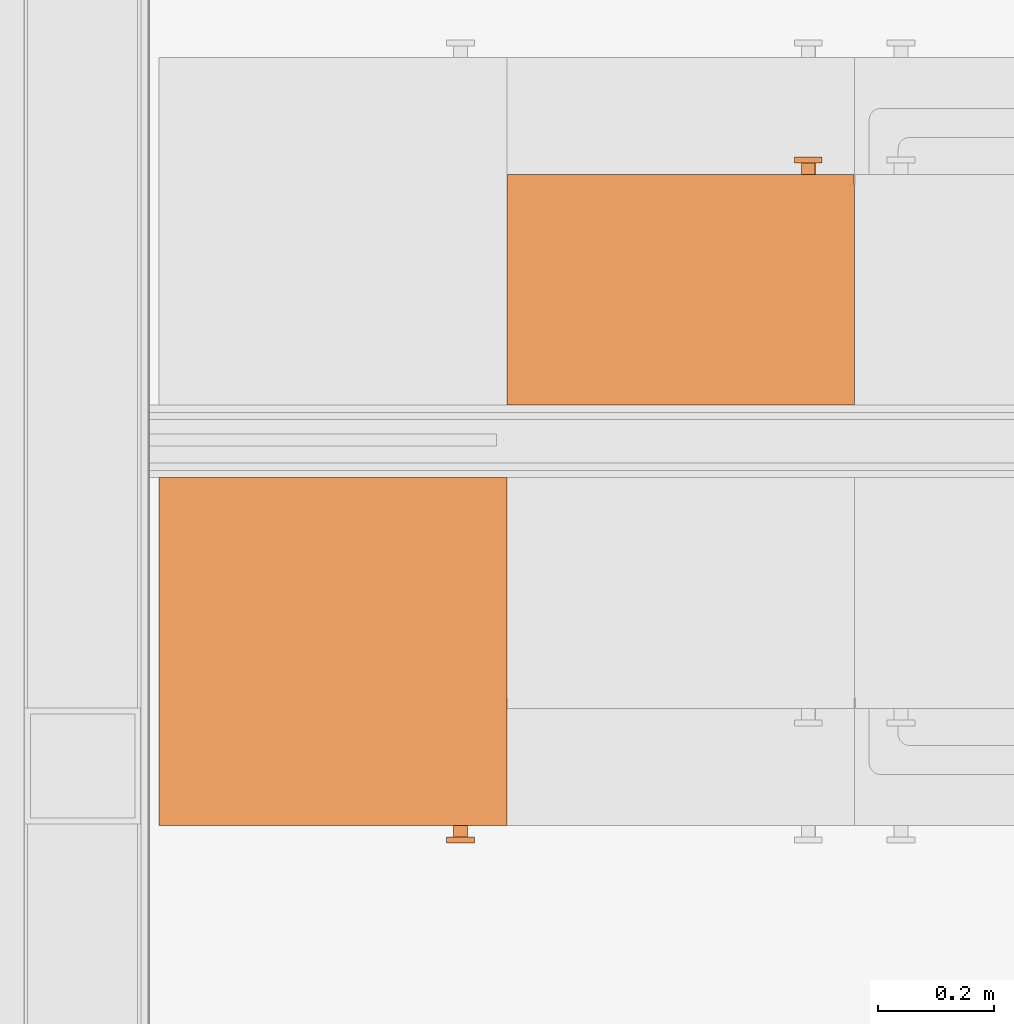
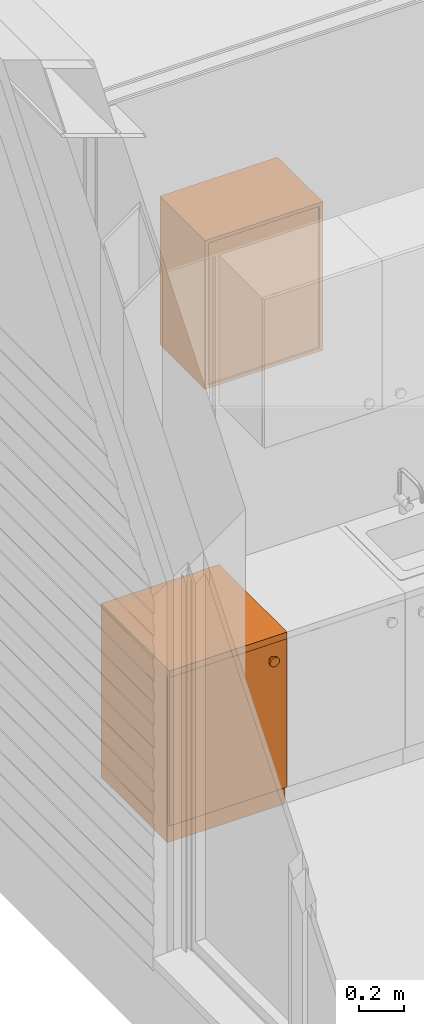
# One storey, part 127 of 165: 2 proxies.
"""IFC2X3 building model written with IfcOpenShell, lengths in millimetres."""

from ifc_helpers import new_model, entity, si_unit, converted_unit, derived_unit, money_unit, direction, frame, origin_with_axes, place, context, subcontext, project, spatial, faceted_brep, source, transform, mapped, type_object, type_shapes, element, save


model = new_model("IFC2X3")

# Units and contexts
model_context = context("Model", 3, precision=0.01, world=origin_with_axes(), true_north=direction((0.0, 1.0)))
body_context = subcontext(model_context, "Body", "Model", "MODEL_VIEW")
ifc_project = project(units=[si_unit("LENGTHUNIT", "METRE", prefix="MILLI"), si_unit("AREAUNIT", "SQUARE_METRE"), si_unit("VOLUMEUNIT", "CUBIC_METRE"), converted_unit("PLANEANGLEUNIT", "DEGREE", entity("IfcPlaneAngleMeasure", 0.0174532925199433), si_unit("PLANEANGLEUNIT", "RADIAN"), dimensions=[0, 0, 0, 0, 0, 0, 0]), money_unit("EUR"), converted_unit("TIMEUNIT", "Year", entity("IfcTimeMeasure", 31556926.0), si_unit("TIMEUNIT", "SECOND"), dimensions=[0, 0, 1, 0, 0, 0, 0]), si_unit("MASSUNIT", "GRAM", prefix="KILO"), si_unit("THERMODYNAMICTEMPERATUREUNIT", "DEGREE_CELSIUS"), si_unit("LUMINOUSINTENSITYUNIT", "LUMEN"), si_unit("ENERGYUNIT", "JOULE", prefix="MEGA"), derived_unit("THERMALCONDUCTANCEUNIT", [(si_unit("POWERUNIT", "WATT"), 1), (si_unit("LENGTHUNIT", "METRE"), -1), (si_unit("THERMODYNAMICTEMPERATUREUNIT", "KELVIN"), -1)]), derived_unit("SPECIFICHEATCAPACITYUNIT", [(si_unit("ENERGYUNIT", "JOULE"), 1), (si_unit("MASSUNIT", "GRAM", prefix="KILO"), -1), (si_unit("THERMODYNAMICTEMPERATUREUNIT", "KELVIN"), -1)]), derived_unit("MASSDENSITYUNIT", [(si_unit("MASSUNIT", "GRAM", prefix="KILO"), 1), (si_unit("VOLUMEUNIT", "CUBIC_METRE"), -1)])], contexts=[model_context])

# Site, building, storey
site_placement = place(None, origin_with_axes())
site = spatial("IfcSite", under=ifc_project, at=site_placement, Name="Site", CompositionType="ELEMENT")
building_placement = place(site_placement, origin_with_axes())
building = spatial("IfcBuilding", under=site, at=building_placement, Name="Naam gebouw", CompositionType="ELEMENT")
storey_placement = place(building_placement, origin_with_axes())
storey = spatial("IfcBuildingStorey", under=building, at=storey_placement, Name="Begane grond", CompositionType="ELEMENT", Elevation=0.0)

# Proxies
building_element_proxy_type_1 = type_object("IfcBuildingElementProxyType", Name="Onderkast recht 26", PredefinedType="NOTDEFINED")
shared_shape_1 = source(origin_with_axes(), body_context, "Body", "Brep", [
    faceted_brep([(0.0, -600.0, 900.0), (600.0, -600.0, 900.0), (600.0, -600.0, 935.0), (0.0, -600.0, 935.0), (0.0, 0.0, 900.0), (600.0, 0.0, 900.0), (600.0, 0.0, 935.0), (0.0, 0.0, 935.0)], [[[0, 1, 2, 3]], [[0, 4, 5, 1]], [[1, 5, 6, 2]], [[3, 2, 6, 7]], [[4, 0, 3, 7]], [[5, 4, 7, 6]]]),
    faceted_brep([(531.8176930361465, -600.0, 816.9162218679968), (531.2763114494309, -600.0, 814.895758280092), (530.3923048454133, -600.0, 813.0), (529.1925333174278, -600.0, 811.2865486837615), (527.7134513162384, -600.0, 809.8074666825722), (526.0, -600.0, 808.6076951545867), (524.104241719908, -600.0, 807.7236885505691), (522.0837781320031, -600.0, 807.1823069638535), (520.0, -600.0, 806.9999999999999), (517.9162218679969, -600.0, 807.1823069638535), (515.8957582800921, -600.0, 807.7236885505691), (514.0, -600.0, 808.6076951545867), (512.2865486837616, -600.0, 809.8074666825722), (510.8074666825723, -600.0, 811.2865486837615), (509.6076951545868, -600.0, 813.0), (508.7236885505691, -600.0, 814.895758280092), (508.1823069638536, -600.0, 816.9162218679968), (508.0, -600.0, 819.0), (508.1823069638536, -600.0, 821.0837781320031), (508.7236885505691, -600.0, 823.1042417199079), (509.6076951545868, -600.0, 825.0), (510.8074666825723, -600.0, 826.7134513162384), (512.2865486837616, -600.0, 828.1925333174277), (514.0, -600.0, 829.3923048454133), (515.8957582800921, -600.0, 830.2763114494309), (517.9162218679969, -600.0, 830.8176930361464), (520.0, -600.0, 831.0), (522.0837781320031, -600.0, 830.8176930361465), (524.104241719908, -600.0, 830.2763114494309), (526.0, -600.0, 829.3923048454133), (527.7134513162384, -600.0, 828.1925333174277), (529.1925333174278, -600.0, 826.7134513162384), (530.3923048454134, -600.0, 825.0), (531.2763114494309, -600.0, 823.1042417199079), (531.8176930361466, -600.0, 821.0837781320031), (532.0, -600.0, 819.0), (531.8176930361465, -620.0, 816.9162218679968), (531.2763114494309, -620.0, 814.895758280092), (530.3923048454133, -620.0, 813.0), (529.1925333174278, -620.0, 811.2865486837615), (527.7134513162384, -620.0, 809.8074666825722), (526.0, -620.0, 808.6076951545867), (524.104241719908, -620.0, 807.7236885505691), (522.0837781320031, -620.0, 807.1823069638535), (520.0, -620.0, 806.9999999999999), (517.9162218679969, -620.0, 807.1823069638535), (515.8957582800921, -620.0, 807.7236885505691), (514.0, -620.0, 808.6076951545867), (512.2865486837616, -620.0, 809.8074666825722), (510.8074666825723, -620.0, 811.2865486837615), (509.6076951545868, -620.0, 813.0), (508.7236885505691, -620.0, 814.895758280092), (508.1823069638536, -620.0, 816.9162218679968), (508.0, -620.0, 819.0), (508.1823069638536, -620.0, 821.0837781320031), (508.7236885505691, -620.0, 823.1042417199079), (509.6076951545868, -620.0, 825.0), (510.8074666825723, -620.0, 826.7134513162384), (512.2865486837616, -620.0, 828.1925333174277), (514.0, -620.0, 829.3923048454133), (515.8957582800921, -620.0, 830.2763114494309), (517.9162218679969, -620.0, 830.8176930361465), (520.0, -620.0, 831.0), (522.0837781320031, -620.0, 830.8176930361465), (524.104241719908, -620.0, 830.2763114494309), (526.0, -620.0, 829.3923048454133), (527.7134513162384, -620.0, 828.1925333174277), (529.1925333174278, -620.0, 826.7134513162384), (530.3923048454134, -620.0, 825.0), (531.2763114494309, -620.0, 823.1042417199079), (531.8176930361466, -620.0, 821.0837781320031), (532.0, -620.0, 819.0)], [[[0, 1, 2, 3, 4, 5, 6, 7, 8, 9, 10, 11, 12, 13, 14, 15, 16, 17, 18, 19, 20, 21, 22, 23, 24, 25, 26, 27, 28, 29, 30, 31, 32, 33, 34, 35]], [[1, 0, 36, 37]], [[2, 1, 37, 38]], [[3, 2, 38, 39]], [[4, 3, 39, 40]], [[5, 4, 40, 41]], [[6, 5, 41, 42]], [[7, 6, 42, 43]], [[8, 7, 43, 44]], [[9, 8, 44, 45]], [[10, 9, 45, 46]], [[11, 10, 46, 47]], [[12, 11, 47, 48]], [[13, 12, 48, 49]], [[14, 13, 49, 50]], [[15, 14, 50, 51]], [[16, 15, 51, 52]], [[17, 16, 52, 53]], [[18, 17, 53, 54]], [[19, 18, 54, 55]], [[20, 19, 55, 56]], [[21, 20, 56, 57]], [[22, 21, 57, 58]], [[23, 22, 58, 59]], [[24, 23, 59, 60]], [[25, 24, 60, 61]], [[26, 25, 61, 62]], [[27, 26, 62, 63]], [[28, 27, 63, 64]], [[29, 28, 64, 65]], [[30, 29, 65, 66]], [[31, 30, 66, 67]], [[32, 31, 67, 68]], [[33, 32, 68, 69]], [[34, 33, 69, 70]], [[35, 34, 70, 71]], [[0, 35, 71, 36]], [[36, 71, 70, 69, 68, 67, 66, 65, 64, 63, 62, 61, 60, 59, 58, 57, 56, 55, 54, 53, 52, 51, 50, 49, 48, 47, 46, 45, 44, 43, 42, 41, 40, 39, 38, 37]]]),
    faceted_brep([(543.635386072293, -620.0, 814.8324437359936), (542.5526228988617, -620.0, 810.7915165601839), (540.7846096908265, -620.0, 806.9999999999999), (538.3850666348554, -620.0, 803.573097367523), (535.426902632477, -620.0, 800.6149333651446), (532.0, -620.0, 798.2153903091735), (528.2084834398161, -620.0, 796.4473771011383), (524.1675562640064, -620.0, 795.364613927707), (520.0, -620.0, 794.9999999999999), (515.8324437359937, -620.0, 795.364613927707), (511.7915165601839, -620.0, 796.4473771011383), (508.0, -620.0, 798.2153903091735), (504.5730973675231, -620.0, 800.6149333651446), (501.6149333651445, -620.0, 803.573097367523), (499.2153903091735, -620.0, 806.9999999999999), (497.4473771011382, -620.0, 810.7915165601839), (496.364613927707, -620.0, 814.8324437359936), (496.0000000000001, -620.0, 819.0), (496.364613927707, -620.0, 823.1675562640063), (497.4473771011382, -620.0, 827.2084834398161), (499.2153903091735, -620.0, 831.0), (501.6149333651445, -620.0, 834.4269026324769), (504.5730973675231, -620.0, 837.3850666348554), (508.0, -620.0, 839.7846096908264), (511.7915165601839, -620.0, 841.5526228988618), (515.8324437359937, -620.0, 842.6353860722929), (520.0, -620.0, 843.0), (524.1675562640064, -620.0, 842.6353860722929), (528.2084834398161, -620.0, 841.5526228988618), (532.0, -620.0, 839.7846096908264), (535.426902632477, -620.0, 837.3850666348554), (538.3850666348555, -620.0, 834.4269026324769), (540.7846096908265, -620.0, 831.0), (542.5526228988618, -620.0, 827.2084834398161), (543.635386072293, -620.0, 823.1675562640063), (544.0, -620.0, 819.0), (543.635386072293, -630.0, 814.8324437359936), (542.5526228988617, -630.0, 810.7915165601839), (540.7846096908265, -630.0, 806.9999999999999), (538.3850666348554, -630.0, 803.573097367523), (535.426902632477, -630.0, 800.6149333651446), (532.0, -630.0, 798.2153903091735), (528.2084834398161, -630.0, 796.4473771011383), (524.1675562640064, -630.0, 795.364613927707), (520.0, -630.0, 794.9999999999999), (515.8324437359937, -630.0, 795.364613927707), (511.7915165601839, -630.0, 796.4473771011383), (508.0, -630.0, 798.2153903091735), (504.5730973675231, -630.0, 800.6149333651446), (501.6149333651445, -630.0, 803.573097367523), (499.2153903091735, -630.0, 806.9999999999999), (497.4473771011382, -630.0, 810.7915165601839), (496.364613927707, -630.0, 814.8324437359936), (496.0000000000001, -630.0, 819.0), (496.364613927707, -630.0, 823.1675562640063), (497.4473771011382, -630.0, 827.2084834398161), (499.2153903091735, -630.0, 831.0), (501.6149333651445, -630.0, 834.4269026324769), (504.5730973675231, -630.0, 837.3850666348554), (508.0, -630.0, 839.7846096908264), (511.7915165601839, -630.0, 841.5526228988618), (515.8324437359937, -630.0, 842.6353860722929), (520.0, -630.0, 843.0), (524.1675562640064, -630.0, 842.6353860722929), (528.2084834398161, -630.0, 841.5526228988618), (532.0, -630.0, 839.7846096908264), (535.426902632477, -630.0, 837.3850666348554), (538.3850666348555, -630.0, 834.4269026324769), (540.7846096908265, -630.0, 831.0), (542.5526228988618, -630.0, 827.2084834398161), (543.635386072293, -630.0, 823.1675562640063), (544.0, -630.0, 819.0)], [[[0, 1, 2, 3, 4, 5, 6, 7, 8, 9, 10, 11, 12, 13, 14, 15, 16, 17, 18, 19, 20, 21, 22, 23, 24, 25, 26, 27, 28, 29, 30, 31, 32, 33, 34, 35]], [[1, 0, 36, 37]], [[2, 1, 37, 38]], [[3, 2, 38, 39]], [[4, 3, 39, 40]], [[5, 4, 40, 41]], [[6, 5, 41, 42]], [[7, 6, 42, 43]], [[8, 7, 43, 44]], [[9, 8, 44, 45]], [[10, 9, 45, 46]], [[11, 10, 46, 47]], [[12, 11, 47, 48]], [[13, 12, 48, 49]], [[14, 13, 49, 50]], [[15, 14, 50, 51]], [[16, 15, 51, 52]], [[17, 16, 52, 53]], [[18, 17, 53, 54]], [[19, 18, 54, 55]], [[20, 19, 55, 56]], [[21, 20, 56, 57]], [[22, 21, 57, 58]], [[23, 22, 58, 59]], [[24, 23, 59, 60]], [[25, 24, 60, 61]], [[26, 25, 61, 62]], [[27, 26, 62, 63]], [[28, 27, 63, 64]], [[29, 28, 64, 65]], [[30, 29, 65, 66]], [[31, 30, 66, 67]], [[32, 31, 67, 68]], [[33, 32, 68, 69]], [[34, 33, 69, 70]], [[35, 34, 70, 71]], [[0, 35, 71, 36]], [[36, 71, 70, 69, 68, 67, 66, 65, 64, 63, 62, 61, 60, 59, 58, 57, 56, 55, 54, 53, 52, 51, 50, 49, 48, 47, 46, 45, 44, 43, 42, 41, 40, 39, 38, 37]]]),
    faceted_brep([(1.0, -582.0, 101.0), (599.0, -582.0, 101.0), (599.0, -600.0, 101.0), (1.0, -600.0, 101.0), (1.0, -582.0, 899.0), (599.0, -582.0, 899.0), (599.0, -599.9999999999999, 899.0), (1.0, -599.9999999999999, 899.0)], [[[0, 1, 2, 3]], [[0, 4, 5, 1]], [[1, 5, 6, 2]], [[3, 2, 6, 7]], [[4, 0, 3, 7]], [[5, 4, 7, 6]]]),
    faceted_brep([(18.0, -582.0, 100.0), (582.0, -582.0, 100.0), (582.0, -582.0, 118.0), (18.0, -582.0, 118.0), (18.0, 0.0, 100.0), (582.0, 0.0, 100.0), (582.0, 0.0, 118.0), (18.0, 0.0, 118.0)], [[[0, 1, 2, 3]], [[0, 4, 5, 1]], [[1, 5, 6, 2]], [[3, 2, 6, 7]], [[4, 0, 3, 7]], [[5, 4, 7, 6]]]),
    faceted_brep([(18.0, -582.0, 882.0), (18.0, -522.0, 882.0), (582.0, -522.0, 882.0), (582.0, -582.0, 882.0), (18.0, -582.0, 900.0), (18.0, -522.0, 900.0), (582.0, -522.0, 900.0), (582.0, -582.0, 900.0)], [[[0, 1, 2, 3]], [[0, 4, 5, 1]], [[1, 5, 6, 2]], [[3, 2, 6, 7]], [[4, 0, 3, 7]], [[5, 4, 7, 6]]]),
    faceted_brep([(582.0, 0.0, 882.0), (582.0, -60.0, 882.0), (18.0, -60.0, 882.0), (18.0, 0.0, 882.0), (582.0, 0.0, 900.0), (582.0, -60.0, 900.0), (18.0, -60.0, 900.0), (18.0, 0.0, 900.0)], [[[0, 1, 2, 3]], [[0, 4, 5, 1]], [[1, 5, 6, 2]], [[3, 2, 6, 7]], [[4, 0, 3, 7]], [[5, 4, 7, 6]]]),
    faceted_brep([(0.0, 0.0, 100.0), (0.0, -582.0, 100.0), (0.0, -582.0, 900.0), (0.0, 0.0, 900.0), (18.0, 0.0, 100.0), (18.0, -582.0, 100.0), (18.0, -582.0, 900.0), (18.0, 0.0, 900.0)], [[[0, 1, 2, 3]], [[0, 4, 5, 1]], [[1, 5, 6, 2]], [[3, 2, 6, 7]], [[4, 0, 3, 7]], [[5, 4, 7, 6]]]),
    faceted_brep([(600.0, -582.0, 100.0), (600.0, 0.0, 100.0), (600.0, 0.0, 900.0), (600.0, -582.0, 900.0), (582.0, -582.0, 100.0), (582.0, 0.0, 100.0), (582.0, 0.0, 900.0), (582.0, -582.0, 900.0)], [[[0, 1, 2, 3]], [[0, 4, 5, 1]], [[1, 5, 6, 2]], [[3, 2, 6, 7]], [[4, 0, 3, 7]], [[5, 4, 7, 6]]]),
    faceted_brep([(582.0, -9.0, 118.0), (18.00000000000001, -9.0, 118.0), (18.00000000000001, -9.0, 882.0), (582.0, -9.0, 882.0), (582.0, -18.0, 118.0), (18.00000000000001, -18.0, 118.0), (18.00000000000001, -18.0, 882.0), (582.0, -18.0, 882.0)], [[[0, 1, 2, 3]], [[0, 4, 5, 1]], [[1, 5, 6, 2]], [[3, 2, 6, 7]], [[4, 0, 3, 7]], [[5, 4, 7, 6]]]),
    faceted_brep([(0.0, -582.0, 0.0), (600.0, -582.0, 0.0), (600.0, -582.0, 100.0), (0.0, -582.0, 100.0), (0.0, 0.0, 0.0), (600.0, 0.0, 0.0), (600.0, 0.0, 100.0), (0.0, 0.0, 100.0)], [[[0, 1, 2, 3]], [[0, 4, 5, 1]], [[1, 5, 6, 2]], [[3, 2, 6, 7]], [[4, 0, 3, 7]], [[5, 4, 7, 6]]]),
])
type_shapes(building_element_proxy_type_1, [shared_shape_1])
proxy_1_placement = place(storey_placement, frame((232.0000001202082, 11307.50070589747, 0.0), z_axis=(0.0, 0.0, 1.0), x_axis=(1.0, 0.0, 0.0)))
element("IfcBuildingElementProxy", 1, at=proxy_1_placement, inside=storey, type_object=building_element_proxy_type_1, Name="_Leeg", context=body_context, shape_type="MappedRepresentation", body=[
    mapped(shared_shape_1, transform((0.0, 0.0, 0.0))),
])
building_element_proxy_type_2 = type_object("IfcBuildingElementProxyType", Name="Bovenkast recht 26", PredefinedType="NOTDEFINED")
shared_shape_2 = source(origin_with_axes(), body_context, "Body", "Brep", [
    faceted_brep([(-18.0, -380.0, 1891.0), (-18.0, -380.0, 1909.0), (-582.0, -380.0, 1909.0), (-582.0, -380.0, 1891.0), (-18.0, -18.0, 1891.0), (-18.0, -18.0, 1909.0), (-582.0, -18.0, 1909.0), (-582.0, -18.0, 1891.0)], [[[0, 1, 2, 3]], [[4, 5, 1, 0]], [[1, 5, 6, 2]], [[3, 2, 6, 7]], [[0, 3, 7, 4]], [[7, 6, 5, 4]]]),
    faceted_brep([(-531.8176930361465, -398.0, 1570.916221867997), (-532.0, -398.0, 1573.0), (-531.8176930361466, -398.0, 1575.083778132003), (-531.2763114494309, -398.0, 1577.104241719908), (-530.3923048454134, -398.0, 1579.0), (-529.1925333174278, -398.0, 1580.713451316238), (-527.7134513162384, -398.0, 1582.192533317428), (-526.0, -398.0, 1583.392304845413), (-524.104241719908, -398.0, 1584.276311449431), (-522.0837781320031, -398.0, 1584.817693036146), (-520.0, -398.0, 1585.0), (-517.9162218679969, -398.0, 1584.817693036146), (-515.8957582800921, -398.0, 1584.276311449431), (-514.0, -398.0, 1583.392304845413), (-512.2865486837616, -398.0, 1582.192533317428), (-510.8074666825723, -398.0, 1580.713451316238), (-509.6076951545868, -398.0, 1579.0), (-508.7236885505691, -398.0, 1577.104241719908), (-508.1823069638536, -398.0, 1575.083778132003), (-508.0, -398.0, 1573.0), (-508.1823069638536, -398.0, 1570.916221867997), (-508.7236885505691, -398.0, 1568.895758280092), (-509.6076951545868, -398.0, 1567.0), (-510.8074666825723, -398.0, 1565.286548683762), (-512.2865486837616, -398.0, 1563.807466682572), (-514.0, -398.0, 1562.607695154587), (-515.8957582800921, -398.0, 1561.723688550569), (-517.9162218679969, -398.0, 1561.182306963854), (-520.0, -398.0, 1561.0), (-522.0837781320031, -398.0, 1561.182306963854), (-524.104241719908, -398.0, 1561.723688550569), (-526.0, -398.0, 1562.607695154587), (-527.7134513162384, -398.0, 1563.807466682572), (-529.1925333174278, -398.0, 1565.286548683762), (-530.3923048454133, -398.0, 1567.0), (-531.2763114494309, -398.0, 1568.895758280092), (-531.8176930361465, -418.0000000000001, 1570.916221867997), (-532.0, -418.0000000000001, 1573.0), (-531.8176930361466, -418.0000000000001, 1575.083778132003), (-531.2763114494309, -418.0000000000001, 1577.104241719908), (-530.3923048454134, -418.0000000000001, 1579.0), (-529.1925333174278, -418.0000000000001, 1580.713451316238), (-527.7134513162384, -418.0000000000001, 1582.192533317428), (-526.0, -418.0000000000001, 1583.392304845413), (-524.104241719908, -418.0000000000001, 1584.276311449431), (-522.0837781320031, -418.0000000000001, 1584.817693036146), (-520.0, -418.0000000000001, 1585.0), (-517.9162218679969, -418.0000000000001, 1584.817693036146), (-515.8957582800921, -418.0000000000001, 1584.276311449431), (-514.0, -418.0000000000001, 1583.392304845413), (-512.2865486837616, -418.0000000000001, 1582.192533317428), (-510.8074666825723, -418.0000000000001, 1580.713451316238), (-509.6076951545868, -418.0000000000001, 1579.0), (-508.7236885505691, -418.0000000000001, 1577.104241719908), (-508.1823069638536, -418.0000000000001, 1575.083778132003), (-508.0, -418.0000000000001, 1573.0), (-508.1823069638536, -418.0000000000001, 1570.916221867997), (-508.7236885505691, -418.0000000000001, 1568.895758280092), (-509.6076951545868, -418.0000000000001, 1567.0), (-510.8074666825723, -418.0000000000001, 1565.286548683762), (-512.2865486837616, -418.0000000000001, 1563.807466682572), (-514.0, -418.0000000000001, 1562.607695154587), (-515.8957582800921, -418.0000000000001, 1561.723688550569), (-517.9162218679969, -418.0000000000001, 1561.182306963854), (-520.0, -418.0000000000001, 1561.0), (-522.0837781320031, -418.0000000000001, 1561.182306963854), (-524.104241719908, -418.0000000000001, 1561.723688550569), (-526.0, -418.0000000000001, 1562.607695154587), (-527.7134513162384, -418.0000000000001, 1563.807466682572), (-529.1925333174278, -418.0000000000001, 1565.286548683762), (-530.3923048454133, -418.0000000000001, 1567.0), (-531.2763114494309, -418.0000000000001, 1568.895758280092)], [[[0, 1, 2, 3, 4, 5, 6, 7, 8, 9, 10, 11, 12, 13, 14, 15, 16, 17, 18, 19, 20, 21, 22, 23, 24, 25, 26, 27, 28, 29, 30, 31, 32, 33, 34, 35]], [[0, 36, 37, 1]], [[1, 37, 38, 2]], [[2, 38, 39, 3]], [[3, 39, 40, 4]], [[4, 40, 41, 5]], [[5, 41, 42, 6]], [[6, 42, 43, 7]], [[7, 43, 44, 8]], [[8, 44, 45, 9]], [[9, 45, 46, 10]], [[10, 46, 47, 11]], [[11, 47, 48, 12]], [[12, 48, 49, 13]], [[13, 49, 50, 14]], [[14, 50, 51, 15]], [[15, 51, 52, 16]], [[16, 52, 53, 17]], [[17, 53, 54, 18]], [[18, 54, 55, 19]], [[19, 55, 56, 20]], [[20, 56, 57, 21]], [[21, 57, 58, 22]], [[22, 58, 59, 23]], [[23, 59, 60, 24]], [[24, 60, 61, 25]], [[25, 61, 62, 26]], [[26, 62, 63, 27]], [[27, 63, 64, 28]], [[28, 64, 65, 29]], [[29, 65, 66, 30]], [[30, 66, 67, 31]], [[31, 67, 68, 32]], [[32, 68, 69, 33]], [[33, 69, 70, 34]], [[34, 70, 71, 35]], [[35, 71, 36, 0]], [[36, 71, 70, 69, 68, 67, 66, 65, 64, 63, 62, 61, 60, 59, 58, 57, 56, 55, 54, 53, 52, 51, 50, 49, 48, 47, 46, 45, 44, 43, 42, 41, 40, 39, 38, 37]]]),
    faceted_brep([(-543.635386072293, -418.0000000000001, 1568.832443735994), (-544.0, -418.0000000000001, 1573.0), (-543.635386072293, -418.0000000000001, 1577.167556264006), (-542.5526228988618, -418.0000000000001, 1581.208483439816), (-540.7846096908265, -418.0000000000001, 1585.0), (-538.3850666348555, -418.0000000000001, 1588.426902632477), (-535.426902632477, -418.0000000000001, 1591.385066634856), (-532.0, -418.0000000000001, 1593.784609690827), (-528.2084834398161, -418.0000000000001, 1595.552622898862), (-524.1675562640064, -418.0000000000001, 1596.635386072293), (-520.0, -418.0000000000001, 1597.0), (-515.8324437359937, -418.0000000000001, 1596.635386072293), (-511.7915165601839, -418.0000000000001, 1595.552622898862), (-508.0, -418.0000000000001, 1593.784609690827), (-504.5730973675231, -418.0000000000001, 1591.385066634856), (-501.6149333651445, -418.0000000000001, 1588.426902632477), (-499.2153903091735, -418.0000000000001, 1585.0), (-497.4473771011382, -418.0000000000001, 1581.208483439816), (-496.364613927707, -418.0000000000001, 1577.167556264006), (-496.0000000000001, -418.0000000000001, 1573.0), (-496.364613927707, -418.0000000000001, 1568.832443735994), (-497.4473771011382, -418.0000000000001, 1564.791516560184), (-499.2153903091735, -418.0000000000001, 1561.0), (-501.6149333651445, -418.0000000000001, 1557.573097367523), (-504.5730973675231, -418.0000000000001, 1554.614933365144), (-508.0, -418.0000000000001, 1552.215390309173), (-511.7915165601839, -418.0000000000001, 1550.447377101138), (-515.8324437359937, -418.0000000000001, 1549.364613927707), (-520.0, -418.0000000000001, 1549.0), (-524.1675562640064, -418.0000000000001, 1549.364613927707), (-528.2084834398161, -418.0000000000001, 1550.447377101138), (-532.0, -418.0000000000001, 1552.215390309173), (-535.426902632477, -418.0000000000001, 1554.614933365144), (-538.3850666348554, -418.0000000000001, 1557.573097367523), (-540.7846096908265, -418.0000000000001, 1561.0), (-542.5526228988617, -418.0000000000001, 1564.791516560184), (-543.635386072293, -428.0000000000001, 1568.832443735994), (-544.0, -428.0000000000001, 1573.0), (-543.635386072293, -428.0000000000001, 1577.167556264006), (-542.5526228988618, -428.0000000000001, 1581.208483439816), (-540.7846096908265, -428.0000000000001, 1585.0), (-538.3850666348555, -428.0000000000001, 1588.426902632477), (-535.426902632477, -428.0000000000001, 1591.385066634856), (-532.0, -428.0000000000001, 1593.784609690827), (-528.2084834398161, -428.0000000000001, 1595.552622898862), (-524.1675562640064, -428.0000000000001, 1596.635386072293), (-520.0, -428.0000000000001, 1597.0), (-515.8324437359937, -428.0000000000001, 1596.635386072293), (-511.7915165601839, -428.0000000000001, 1595.552622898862), (-508.0, -428.0000000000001, 1593.784609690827), (-504.5730973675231, -428.0000000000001, 1591.385066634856), (-501.6149333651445, -428.0000000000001, 1588.426902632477), (-499.2153903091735, -428.0000000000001, 1585.0), (-497.4473771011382, -428.0000000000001, 1581.208483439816), (-496.364613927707, -428.0000000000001, 1577.167556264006), (-496.0000000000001, -428.0000000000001, 1573.0), (-496.364613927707, -428.0000000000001, 1568.832443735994), (-497.4473771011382, -428.0000000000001, 1564.791516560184), (-499.2153903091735, -428.0000000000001, 1561.0), (-501.6149333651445, -428.0000000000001, 1557.573097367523), (-504.5730973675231, -428.0000000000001, 1554.614933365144), (-508.0, -428.0000000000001, 1552.215390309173), (-511.7915165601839, -428.0000000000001, 1550.447377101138), (-515.8324437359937, -428.0000000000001, 1549.364613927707), (-520.0, -428.0000000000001, 1549.0), (-524.1675562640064, -428.0000000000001, 1549.364613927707), (-528.2084834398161, -428.0000000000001, 1550.447377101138), (-532.0, -428.0000000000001, 1552.215390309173), (-535.426902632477, -428.0000000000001, 1554.614933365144), (-538.3850666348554, -428.0000000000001, 1557.573097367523), (-540.7846096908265, -428.0000000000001, 1561.0), (-542.5526228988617, -428.0000000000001, 1564.791516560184)], [[[0, 1, 2, 3, 4, 5, 6, 7, 8, 9, 10, 11, 12, 13, 14, 15, 16, 17, 18, 19, 20, 21, 22, 23, 24, 25, 26, 27, 28, 29, 30, 31, 32, 33, 34, 35]], [[0, 36, 37, 1]], [[1, 37, 38, 2]], [[2, 38, 39, 3]], [[3, 39, 40, 4]], [[4, 40, 41, 5]], [[5, 41, 42, 6]], [[6, 42, 43, 7]], [[7, 43, 44, 8]], [[8, 44, 45, 9]], [[9, 45, 46, 10]], [[10, 46, 47, 11]], [[11, 47, 48, 12]], [[12, 48, 49, 13]], [[13, 49, 50, 14]], [[14, 50, 51, 15]], [[15, 51, 52, 16]], [[16, 52, 53, 17]], [[17, 53, 54, 18]], [[18, 54, 55, 19]], [[19, 55, 56, 20]], [[20, 56, 57, 21]], [[21, 57, 58, 22]], [[22, 58, 59, 23]], [[23, 59, 60, 24]], [[24, 60, 61, 25]], [[25, 61, 62, 26]], [[26, 62, 63, 27]], [[27, 63, 64, 28]], [[28, 64, 65, 29]], [[29, 65, 66, 30]], [[30, 66, 67, 31]], [[31, 67, 68, 32]], [[32, 68, 69, 33]], [[33, 69, 70, 34]], [[34, 70, 71, 35]], [[35, 71, 36, 0]], [[36, 71, 70, 69, 68, 67, 66, 65, 64, 63, 62, 61, 60, 59, 58, 57, 56, 55, 54, 53, 52, 51, 50, 49, 48, 47, 46, 45, 44, 43, 42, 41, 40, 39, 38, 37]]]),
    faceted_brep([(-1.0, -380.0, 1501.0), (-1.0, -398.0, 1501.0), (-599.0, -398.0, 1501.0), (-599.0, -380.0, 1501.0), (-1.0, -379.9999999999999, 2299.0), (-1.0, -397.9999999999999, 2299.0), (-599.0, -397.9999999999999, 2299.0), (-599.0, -379.9999999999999, 2299.0)], [[[0, 1, 2, 3]], [[4, 5, 1, 0]], [[1, 5, 6, 2]], [[3, 2, 6, 7]], [[0, 3, 7, 4]], [[7, 6, 5, 4]]]),
    faceted_brep([(-18.0, -380.0, 1500.0), (-18.0, -380.0, 1518.0), (-582.0, -380.0, 1518.0), (-582.0, -380.0, 1500.0), (-18.0, 0.0, 1500.0), (-18.0, 0.0, 1518.0), (-582.0, 0.0, 1518.0), (-582.0, 0.0, 1500.0)], [[[0, 1, 2, 3]], [[4, 5, 1, 0]], [[1, 5, 6, 2]], [[3, 2, 6, 7]], [[0, 3, 7, 4]], [[7, 6, 5, 4]]]),
    faceted_brep([(-18.0, -380.0, 2282.0), (-18.0, -380.0, 2300.0), (-582.0, -380.0, 2300.0), (-582.0, -380.0, 2282.0), (-18.0, 0.0, 2282.0), (-18.0, 0.0, 2300.0), (-582.0, 0.0, 2300.0), (-582.0, 0.0, 2282.0)], [[[0, 1, 2, 3]], [[4, 5, 1, 0]], [[1, 5, 6, 2]], [[3, 2, 6, 7]], [[0, 3, 7, 4]], [[7, 6, 5, 4]]]),
    faceted_brep([(0.0, 0.0, 1500.0), (0.0, 0.0, 2300.0), (0.0, -380.0, 2300.0), (0.0, -380.0, 1500.0), (-18.0, 0.0, 1500.0), (-18.0, 0.0, 2300.0), (-18.0, -380.0, 2300.0), (-18.0, -380.0, 1500.0)], [[[0, 1, 2, 3]], [[4, 5, 1, 0]], [[1, 5, 6, 2]], [[3, 2, 6, 7]], [[0, 3, 7, 4]], [[7, 6, 5, 4]]]),
    faceted_brep([(-600.0, -380.0, 1500.0), (-600.0, -380.0, 2300.0), (-600.0, 0.0, 2300.0), (-600.0, 0.0, 1500.0), (-582.0, -380.0, 1500.0), (-582.0, -380.0, 2300.0), (-582.0, 0.0, 2300.0), (-582.0, 0.0, 1500.0)], [[[0, 1, 2, 3]], [[4, 5, 1, 0]], [[1, 5, 6, 2]], [[3, 2, 6, 7]], [[0, 3, 7, 4]], [[7, 6, 5, 4]]]),
    faceted_brep([(-582.0, -9.0, 1518.0), (-582.0, -9.0, 2282.0), (-18.00000000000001, -9.0, 2282.0), (-18.00000000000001, -9.0, 1518.0), (-582.0, -18.0, 1518.0), (-582.0, -18.0, 2282.0), (-18.00000000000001, -18.0, 2282.0), (-18.00000000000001, -18.0, 1518.0)], [[[0, 1, 2, 3]], [[4, 5, 1, 0]], [[1, 5, 6, 2]], [[3, 2, 6, 7]], [[0, 3, 7, 4]], [[7, 6, 5, 4]]]),
])
type_shapes(building_element_proxy_type_2, [shared_shape_2])
proxy_2_placement = place(storey_placement, frame((832.0000007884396, 11432.5011858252, 300.0000000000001), z_axis=(0.0, 0.0, 1.0), x_axis=(-0.9999999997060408, -2.424703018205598e-05, 0.0)))
element("IfcBuildingElementProxy", 2, at=proxy_2_placement, inside=storey, type_object=building_element_proxy_type_2, Name="_Leeg", context=body_context, shape_type="MappedRepresentation", body=[
    mapped(shared_shape_2, transform((0.0, 0.0, 0.0))),
])

save(model, "model.ifc")
